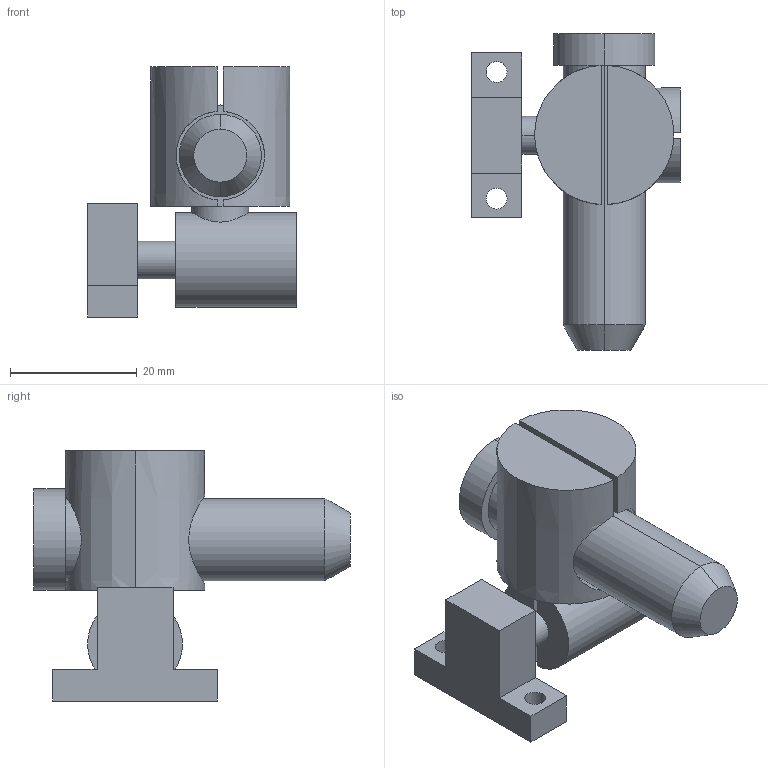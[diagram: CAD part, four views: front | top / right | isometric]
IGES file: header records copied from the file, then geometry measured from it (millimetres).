
Start section: SolidWorks IGES FILE using analytic representation for surfaces
Global section: file name: \\intra-srv04\開発データ\CAD_Data\CAD委員会\3D電子ｶﾀﾛｸﾞ\製品カタログ（新）\0_IGES\ER-ATH.IGS,41HSolidWorks 2004; native system: by SolidWorks Corporation; preprocessor: Version 5.3; author: mf1158; date: 050906.113305; units: millimetre
Bounding box: 32.93 x 50 x 39.5 mm (x, y, z)
Volume: 17036.5 mm3; surface area: 8907.6 mm2
Topology: 4 solids, 4 shells, 55 faces, 122 edges, 78 vertices
Faces by surface type: plane 30, revolution 25
